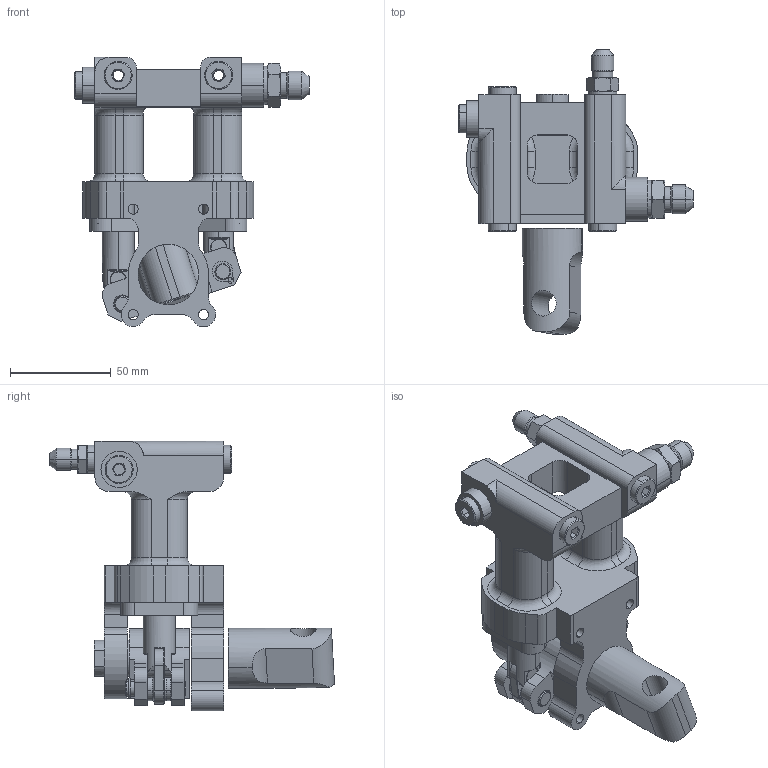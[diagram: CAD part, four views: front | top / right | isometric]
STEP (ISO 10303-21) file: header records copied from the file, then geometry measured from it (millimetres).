
FILE_DESCRIPTION (( 'STEP AP203' ), '1' );
FILE_NAME ('IPA_0416_R.STEP', '2018-05-23T15:09:41', ( '' ), ( '' ), 'SwSTEP 2.0', 'SolidWorks 2015', '' );
FILE_SCHEMA (( 'CONFIG_CONTROL_DESIGN' ));
Length unit declared in the file: millimetre
Products named in the file (1): IPA_0416_R
Bounding box: 116.5 x 141.5 x 134 mm (x, y, z)
Surface area: 75141.8 mm2 (no closed solid volume)
Topology: 0 solids, 39 shells, 627 faces, 1761 edges, 1161 vertices
Faces by surface type: cylinder 246, plane 246, cone 95, torus 40
Entity records: 21050 total; most frequent: CARTESIAN_POINT 4602, DIRECTION 3616, ORIENTED_EDGE 3127, EDGE_CURVE 1761, AXIS2_PLACEMENT_3D 1361, VERTEX_POINT 1161, LINE 894, VECTOR 894
